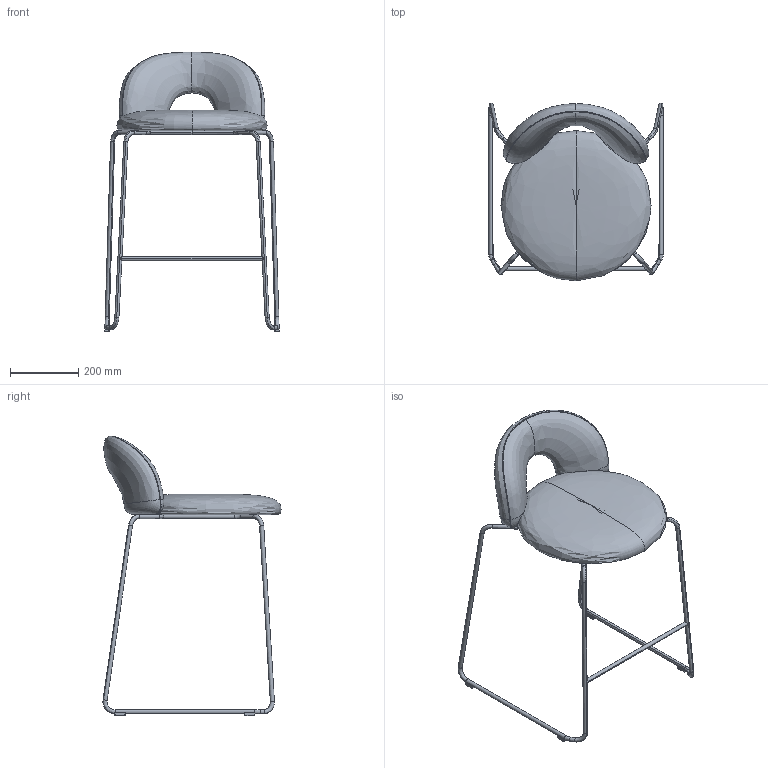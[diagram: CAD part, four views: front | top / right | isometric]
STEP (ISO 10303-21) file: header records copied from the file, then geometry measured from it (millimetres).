
FILE_DESCRIPTION(/* description */ (''),/* implementation_level */ '2;1');
FILE_NAME(/* name */ 'Paulin_SL_SG_65_PabloReganoStudio',/* time_stamp */ '2026-04-02T07:30:09+02:00',/* author */ (''),/* organization */ (''),/* preprocessor_version */ 'ST-DEVELOPER v19.2',/* originating_system */ 'Rhino 8.5',/* authorisation */ '');
FILE_SCHEMA (('AP242_MANAGED_MODEL_BASED_3D_ENGINEERING_MIM_LF { 1 0 10303 442 3 1 4 }'));
Length unit declared in the file: millimetre
Products named in the file (1): Document
Bounding box: 512.75 x 521.92 x 819.41 mm (x, y, z)
Volume: 7597652 mm3; surface area: 911789.3 mm2
Topology: 1 solids, 188 shells, 220 faces, 866 edges, 787 vertices
Faces by surface type: bspline 98, cylinder 94, plane 28
Entity records: 59587 total; most frequent: CARTESIAN_POINT 53253, ORIENTED_EDGE 926, EDGE_CURVE 858, DIRECTION 828, VERTEX_POINT 786, AXIS2_PLACEMENT_3D 475, B_SPLINE_CURVE_WITH_KNOTS 376, CIRCLE 349
